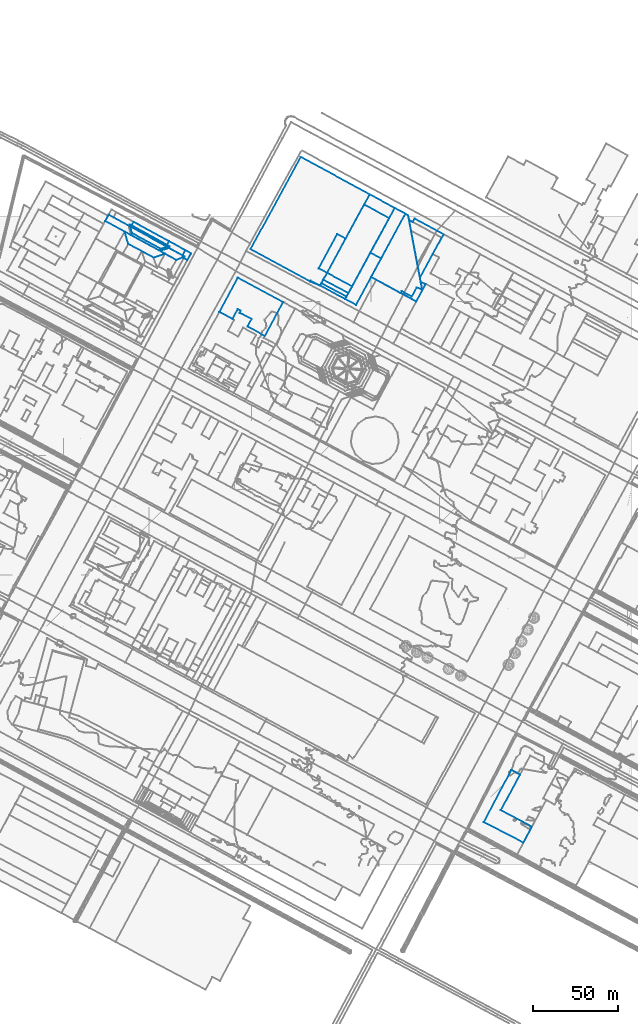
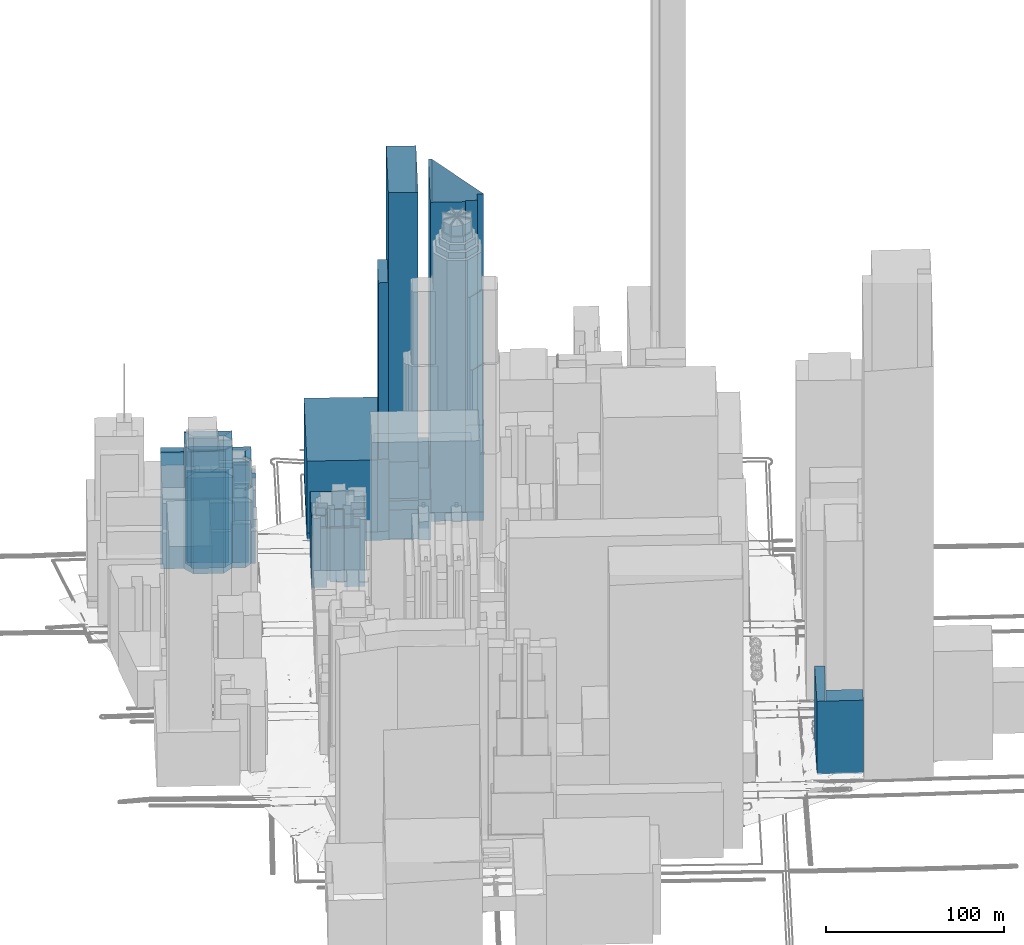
# Not in any storey, part 31 of 80: 23 walls.
"""IFC4 building model written with IfcOpenShell, lengths in metres."""

from ifc_helpers import new_model, si_unit, frame, origin_with_axes, place, context, subcontext, project, spatial, polygons, element, save


model = new_model("IFC4")

# Units and contexts
model_context = context("Model", 3, precision=1e-05, world=origin_with_axes())
body_context = subcontext(model_context, "Body", "Model", "MODEL_VIEW")
ifc_project = project(units=[si_unit("AREAUNIT", "SQUARE_METRE"), si_unit("LENGTHUNIT", "METRE")], contexts=[model_context])

# Sites, building
site_1_placement = place(None, origin_with_axes())
site_1 = spatial("IfcSite", under=ifc_project, at=site_1_placement, Name="Topoexport Site")
site_2_placement = place(site_1_placement, origin_with_axes())
site_2 = spatial("IfcSite", under=site_1, at=site_2_placement, Name="TPX_BATIMENTS")
building_1_placement = place(site_2_placement, frame((286.0454970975, 24.8510106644, 18.703520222), z_axis=(0.0, 0.0, 1.0), x_axis=(1.0, 0.0, 0.0)))
building_1 = spatial("IfcBuilding", under=site_2, at=building_1_placement, Name="Batiment 10", CompositionType="ELEMENT")

# Wall
wall_1_placement = place(None, frame((286.0454970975, 24.8510106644, 18.703520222), z_axis=(0.0, 0.0, 1.0), x_axis=(1.0, 0.0, 0.0)))
element("IfcWall", 1, at=wall_1_placement, inside=building_1, Name="Mur 0", context=body_context, shape_type="Tessellation", body=[
    polygons([(0.0, 0.0, 0.0), (23.1269540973, -12.0431954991, 0.0), (28.0919487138, -2.7261091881, 0.0), (9.9393429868, 6.9546793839, 0.0), (21.1440946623, 27.7575168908, 0.0), (16.1055235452, 30.5632428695, 0.0), (0.0, 0.0, 50.0), (23.1269540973, -12.0431954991, 50.0), (28.0919487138, -2.7261091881, 50.0), (9.9393429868, 6.9546793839, 50.0), (21.1440946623, 27.7575168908, 50.0), (16.1055235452, 30.5632428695, 50.0)], [[[8, 7, 2]], [[2, 7, 1]], [[9, 8, 3]], [[3, 8, 2]], [[10, 9, 4]], [[4, 9, 3]], [[11, 10, 5]], [[5, 10, 4]], [[7, 12, 1]], [[1, 12, 6]], [[12, 11, 6]], [[6, 11, 5]]]),
])

# Building
building_2_placement = place(site_2_placement, frame((219.6501998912, 358.1121317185, 21.8344391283), z_axis=(0.0, 0.0, 1.0), x_axis=(1.0, 0.0, 0.0)))
building_2 = spatial("IfcBuilding", under=site_2, at=building_2_placement, Name="Batiment 239", CompositionType="ELEMENT")

# Wall
wall_2_placement = place(None, frame((219.6501998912, 358.1121317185, 21.8344391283), z_axis=(0.0, 0.0, 1.0), x_axis=(1.0, 0.0, 0.0)))
element("IfcWall", 2, at=wall_2_placement, inside=building_2, Name="Mur 0", context=body_context, shape_type="Tessellation", body=[
    polygons([(0.0, 0.0, 0.0), (6.2692645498, -3.4020859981, 0.0), (20.4756016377, 22.7535668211, 0.0), (14.1893424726, 26.1665450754, 0.0), (0.0, 0.0, 27.7000007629), (6.2692645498, -3.4020859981, 27.7000007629), (20.4756016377, 22.7535668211, 27.7000007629), (14.1893424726, 26.1665450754, 27.7000007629)], [[[6, 5, 2]], [[2, 5, 1]], [[7, 6, 3]], [[3, 6, 2]], [[5, 8, 1]], [[1, 8, 4]], [[8, 7, 4]], [[4, 7, 3]]]),
])

# Building
building_3_placement = place(site_2_placement, frame((237.4075822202, 334.4377302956, 21.8574343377), z_axis=(0.0, 0.0, 1.0), x_axis=(1.0, 0.0, 0.0)))
building_3 = spatial("IfcBuilding", under=site_2, at=building_3_placement, Name="Batiment 247", CompositionType="ELEMENT")

# Wall
wall_3_placement = place(None, frame((237.4075822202, 334.4377302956, 21.8574343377), z_axis=(0.0, 0.0, 1.0), x_axis=(1.0, 0.0, 0.0)))
element("IfcWall", 3, at=wall_3_placement, inside=building_3, Name="Mur 0", context=body_context, shape_type="Tessellation", body=[
    polygons([(0.0, 0.0, 0.0), (9.0722546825, -4.8904699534, 0.0), (12.6339095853, 1.6902007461, 0.0), (9.4062271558, 3.4068039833, 0.0), (6.507259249, -2.0892360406, 0.0), (0.6119191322, 1.095140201, 0.0), (0.0, 0.0, 65.0), (9.0722546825, -4.8904699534, 65.0), (12.6339095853, 1.6902007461, 65.0), (9.4062271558, 3.4068039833, 65.0), (6.507259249, -2.0892360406, 65.0), (0.6119191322, 1.095140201, 65.0)], [[[8, 7, 2]], [[2, 7, 1]], [[9, 8, 3]], [[3, 8, 2]], [[10, 9, 4]], [[4, 9, 3]], [[11, 10, 5]], [[5, 10, 4]], [[7, 12, 1]], [[1, 12, 6]], [[12, 11, 6]], [[6, 11, 5]]]),
])

# Building
building_4_placement = place(site_2_placement, frame((220.0023122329, 343.8054149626, 21.493715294), z_axis=(0.0, 0.0, 1.0), x_axis=(1.0, 0.0, 0.0)))
building_4 = spatial("IfcBuilding", under=site_2, at=building_4_placement, Name="Batiment 248", CompositionType="ELEMENT")

# Wall
wall_4_placement = place(None, frame((220.0023122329, 343.8054149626, 21.493715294), z_axis=(0.0, 0.0, 1.0), x_axis=(1.0, 0.0, 0.0)))
element("IfcWall", 4, at=wall_4_placement, inside=building_4, Name="Mur 0", context=body_context, shape_type="Tessellation", body=[
    polygons([(0.0, 0.0, 0.0), (26.4775246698, -14.2581546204, 0.0), (31.9063663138, -4.1918534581, 0.0), (29.1545647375, -2.74727068, 0.0), (28.6785615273, -0.2881071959, 0.0), (42.4133124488, 25.0405352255, 0.0), (25.5002002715, 34.1918411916, 0.0), (24.4257112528, 32.2253420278, 0.0), (22.3276907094, 33.344465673, 0.0), (21.8057455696, 36.1250606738, 0.0), (20.1234892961, 37.0602835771, 0.0), (0.0, 0.0, 6.0), (26.4775246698, -14.2581546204, 6.0), (31.9063663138, -4.1918534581, 6.0), (29.1545647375, -2.74727068, 6.0), (28.6785615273, -0.2881071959, 6.0), (42.4133124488, 25.0405352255, 6.0), (25.5002002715, 34.1918411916, 6.0), (24.4257112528, 32.2253420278, 6.0), (22.3276907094, 33.344465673, 6.0), (21.8057455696, 36.1250606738, 6.0), (20.1234892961, 37.0602835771, 6.0)], [[[13, 12, 2]], [[2, 12, 1]], [[14, 13, 3]], [[3, 13, 2]], [[15, 14, 4]], [[4, 14, 3]], [[16, 15, 5]], [[5, 15, 4]], [[17, 16, 6]], [[6, 16, 5]], [[18, 17, 7]], [[7, 17, 6]], [[19, 18, 8]], [[8, 18, 7]], [[20, 19, 9]], [[9, 19, 8]], [[21, 20, 10]], [[10, 20, 9]], [[12, 22, 1]], [[1, 22, 11]], [[22, 21, 11]], [[11, 21, 10]]]),
])

# Building
building_5_placement = place(site_2_placement, frame((220.0023122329, 343.8054149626, 21.8574343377), z_axis=(0.0, 0.0, 1.0), x_axis=(1.0, 0.0, 0.0)))
building_5 = spatial("IfcBuilding", under=site_2, at=building_5_placement, Name="Batiment 249", CompositionType="ELEMENT")

# Wall
wall_5_placement = place(None, frame((220.0023122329, 343.8054149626, 21.8574343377), z_axis=(0.0, 0.0, 1.0), x_axis=(1.0, 0.0, 0.0)))
element("IfcWall", 5, at=wall_5_placement, inside=building_5, Name="Mur 0", context=body_context, shape_type="Tessellation", body=[
    polygons([(0.0, 0.0, 0.0), (17.4052699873, -9.367684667, 0.0), (18.0171891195, -8.272544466, 0.0), (23.9125292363, -11.4569207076, 0.0), (26.8114971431, -5.9608806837, 0.0), (30.0391795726, -7.6774839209, 0.0), (21.8057455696, 36.1250606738, 0.0), (20.1234892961, 37.0602835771, 0.0), (0.0, 0.0, 218.0), (17.4052699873, -9.367684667, 218.0), (18.0171891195, -8.272544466, 218.0), (23.9125292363, -11.4569207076, 218.0), (26.8114971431, -5.9608806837, 218.0), (30.0391795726, -7.6774839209, 218.0), (21.8057455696, 36.1250606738, 218.0), (20.1234892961, 37.0602835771, 218.0)], [[[10, 9, 2]], [[2, 9, 1]], [[11, 10, 3]], [[3, 10, 2]], [[12, 11, 4]], [[4, 11, 3]], [[13, 12, 5]], [[5, 12, 4]], [[14, 13, 6]], [[6, 13, 5]], [[15, 14, 7]], [[7, 14, 6]], [[9, 16, 1]], [[1, 16, 8]], [[16, 15, 8]], [[8, 15, 7]]]),
])

# Building
building_6_placement = place(site_2_placement, frame((194.2357723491, 346.2924328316, 22.8993147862), z_axis=(0.0, 0.0, 1.0), x_axis=(1.0, 0.0, 0.0)))
building_6 = spatial("IfcBuilding", under=site_2, at=building_6_placement, Name="Batiment 250", CompositionType="ELEMENT")

# Wall
wall_6_placement = place(None, frame((194.2357723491, 346.2924328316, 22.8993147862), z_axis=(0.0, 0.0, 1.0), x_axis=(1.0, 0.0, 0.0)))
element("IfcWall", 6, at=wall_6_placement, inside=building_6, Name="Mur 0", context=body_context, shape_type="Tessellation", body=[
    polygons([(0.0, 0.0, 0.0), (14.695507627, -7.911555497, 0.0), (36.3976918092, 32.0425454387, 0.0), (21.7021083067, 39.9651582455, 0.0), (0.0, 0.0, 231.0), (14.695507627, -7.911555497, 231.0), (36.3976918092, 32.0425454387, 231.0), (21.7021083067, 39.9651582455, 231.0)], [[[6, 5, 2]], [[2, 5, 1]], [[7, 6, 3]], [[3, 6, 2]], [[5, 8, 1]], [[1, 8, 4]], [[8, 7, 4]], [[4, 7, 3]]]),
])

# Building
building_7_placement = place(site_2_placement, frame((189.3088417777, 348.9551990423, 22.410062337), z_axis=(0.0, 0.0, 1.0), x_axis=(1.0, 0.0, 0.0)))
building_7 = spatial("IfcBuilding", under=site_2, at=building_7_placement, Name="Batiment 251", CompositionType="ELEMENT")

# Wall
wall_7_placement = place(None, frame((189.3088417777, 348.9551990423, 22.410062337), z_axis=(0.0, 0.0, 1.0), x_axis=(1.0, 0.0, 0.0)))
element("IfcWall", 7, at=wall_7_placement, inside=building_7, Name="Mur 0", context=body_context, shape_type="Tessellation", body=[
    polygons([(0.0, 0.0, 0.0), (4.9269305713, -2.6627662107, 0.0), (0.8608347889, -10.1485570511, 0.0), (15.5890804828, -17.9709220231, 0.0), (44.530700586, 35.3234777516, 0.0), (29.8769383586, 43.2798772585, 0.0), (15.8109363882, 17.3923517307, 0.0), (10.8841438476, 20.0440098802, 0.0), (0.0, 0.0, 6.0), (4.9269305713, -2.6627662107, 6.0), (0.8608347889, -10.1485570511, 6.0), (15.5890804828, -17.9709220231, 6.0), (44.530700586, 35.3234777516, 6.0), (29.8769383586, 43.2798772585, 6.0), (15.8109363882, 17.3923517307, 6.0), (10.8841438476, 20.0440098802, 6.0)], [[[10, 9, 2]], [[2, 9, 1]], [[11, 10, 3]], [[3, 10, 2]], [[12, 11, 4]], [[4, 11, 3]], [[13, 12, 5]], [[5, 12, 4]], [[14, 13, 6]], [[6, 13, 5]], [[15, 14, 7]], [[7, 14, 6]], [[9, 16, 1]], [[1, 16, 8]], [[16, 15, 8]], [[8, 15, 7]]]),
])

# Building
building_8_placement = place(site_2_placement, frame((189.3088417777, 348.9551990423, 22.410062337), z_axis=(0.0, 0.0, 1.0), x_axis=(1.0, 0.0, 0.0)))
building_8 = spatial("IfcBuilding", under=site_2, at=building_8_placement, Name="Batiment 252", CompositionType="ELEMENT")

# Wall
wall_8_placement = place(None, frame((189.3088417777, 348.9551990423, 22.410062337), z_axis=(0.0, 0.0, 1.0), x_axis=(1.0, 0.0, 0.0)))
element("IfcWall", 8, at=wall_8_placement, inside=building_8, Name="Mur 0", context=body_context, shape_type="Tessellation", body=[
    polygons([(0.0, 0.0, 0.0), (4.9269305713, -2.6627662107, 0.0), (15.8109363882, 17.3923517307, 0.0), (10.8841438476, 20.0440098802, 0.0), (0.0, 0.0, 170.0), (4.9269305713, -2.6627662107, 170.0), (15.8109363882, 17.3923517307, 170.0), (10.8841438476, 20.0440098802, 170.0)], [[[6, 5, 2]], [[2, 5, 1]], [[7, 6, 3]], [[3, 6, 2]], [[5, 8, 1]], [[1, 8, 4]], [[8, 7, 4]], [[4, 7, 3]]]),
])

# Building
building_9_placement = place(site_2_placement, frame((192.0622109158, 342.2925513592, 22.833956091), z_axis=(0.0, 0.0, 1.0), x_axis=(1.0, 0.0, 0.0)))
building_9 = spatial("IfcBuilding", under=site_2, at=building_9_placement, Name="Batiment 253", CompositionType="ELEMENT")

# Wall
wall_9_placement = place(None, frame((192.0622109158, 342.2925513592, 22.833956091), z_axis=(0.0, 0.0, 1.0), x_axis=(1.0, 0.0, 0.0)))
element("IfcWall", 9, at=wall_9_placement, inside=building_9, Name="Mur 0", context=body_context, shape_type="Tessellation", body=[
    polygons([(0.0, 0.0, 0.0), (14.6956420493, -7.9226606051, 0.0), (16.8690690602, -3.9116740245, 0.0), (2.1735614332, 3.9998814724, 0.0), (0.0, 0.0, 50.0), (14.6956420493, -7.9226606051, 50.0), (16.8690690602, -3.9116740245, 50.0), (2.1735614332, 3.9998814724, 50.0)], [[[6, 5, 2]], [[2, 5, 1]], [[7, 6, 3]], [[3, 6, 2]], [[5, 8, 1]], [[1, 8, 4]], [[8, 7, 4]], [[4, 7, 3]]]),
])

# Building
building_10_placement = place(site_2_placement, frame((190.971338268, 340.2814610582, 22.7953305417), z_axis=(0.0, 0.0, 1.0), x_axis=(1.0, 0.0, 0.0)))
building_10 = spatial("IfcBuilding", under=site_2, at=building_10_placement, Name="Batiment 254", CompositionType="ELEMENT")

# Wall
wall_10_placement = place(None, frame((190.971338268, 340.2814610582, 22.7953305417), z_axis=(0.0, 0.0, 1.0), x_axis=(1.0, 0.0, 0.0)))
element("IfcWall", 10, at=wall_10_placement, inside=building_10, Name="Mur 0", context=body_context, shape_type="Tessellation", body=[
    polygons([(0.0, 0.0, 0.0), (14.6956447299, -7.9226627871, 0.0), (15.7865146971, -5.9115703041, 0.0), (1.0908726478, 2.011090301, 0.0), (0.0, 0.0, 25.0), (14.6956447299, -7.9226627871, 25.0), (15.7865146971, -5.9115703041, 25.0), (1.0908726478, 2.011090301, 25.0)], [[[6, 5, 2]], [[2, 5, 1]], [[7, 6, 3]], [[3, 6, 2]], [[5, 8, 1]], [[1, 8, 4]], [[8, 7, 4]], [[4, 7, 3]]]),
])

# Building
building_11_placement = place(site_2_placement, frame((190.1696765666, 338.8066419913, 22.7695470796), z_axis=(0.0, 0.0, 1.0), x_axis=(1.0, 0.0, 0.0)))
building_11 = spatial("IfcBuilding", under=site_2, at=building_11_placement, Name="Batiment 255", CompositionType="ELEMENT")

# Wall
wall_11_placement = place(None, frame((190.1696765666, 338.8066419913, 22.7695470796), z_axis=(0.0, 0.0, 1.0), x_axis=(1.0, 0.0, 0.0)))
element("IfcWall", 11, at=wall_11_placement, inside=building_11, Name="Mur 0", context=body_context, shape_type="Tessellation", body=[
    polygons([(0.0, 0.0, 0.0), (14.728245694, -7.822364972, 0.0), (15.4973064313, -6.4478437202, 0.0), (0.8016617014, 1.4748190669, 0.0), (0.0, 0.0, 20.0), (14.728245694, -7.822364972, 20.0), (15.4973064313, -6.4478437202, 20.0), (0.8016617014, 1.4748190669, 20.0)], [[[6, 5, 2]], [[2, 5, 1]], [[7, 6, 3]], [[3, 6, 2]], [[5, 8, 1]], [[1, 8, 4]], [[8, 7, 4]], [[4, 7, 3]]]),
])

# Building
building_12_placement = place(site_2_placement, frame((204.8979222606, 330.9842770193, 21.8344391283), z_axis=(0.0, 0.0, 1.0), x_axis=(1.0, 0.0, 0.0)))
building_12 = spatial("IfcBuilding", under=site_2, at=building_12_placement, Name="Batiment 256", CompositionType="ELEMENT")

# Wall
wall_12_placement = place(None, frame((204.8979222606, 330.9842770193, 21.8344391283), z_axis=(0.0, 0.0, 1.0), x_axis=(1.0, 0.0, 0.0)))
element("IfcWall", 12, at=wall_12_placement, inside=building_12, Name="Mur 0", context=body_context, shape_type="Tessellation", body=[
    polygons([(0.0, 0.0, 0.0), (6.2862894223, -3.4130030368, 0.0), (21.0215421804, 23.7257687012, 0.0), (14.7522776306, 27.1278546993, 0.0), (0.0, 0.0, 27.7000007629), (6.2862894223, -3.4130030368, 27.7000007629), (21.0215421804, 23.7257687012, 27.7000007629), (14.7522776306, 27.1278546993, 27.7000007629)], [[[6, 5, 2]], [[2, 5, 1]], [[7, 6, 3]], [[3, 6, 2]], [[5, 8, 1]], [[1, 8, 4]], [[8, 7, 4]], [[4, 7, 3]]]),
])

# Building
building_13_placement = place(site_2_placement, frame((131.2414210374, 323.4889407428, 19.5874307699), z_axis=(0.0, 0.0, 1.0), x_axis=(1.0, 0.0, 0.0)))
building_13 = spatial("IfcBuilding", under=site_2, at=building_13_placement, Name="Batiment 257", CompositionType="ELEMENT")

# Wall
wall_13_placement = place(None, frame((131.2414210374, 323.4889407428, 19.5874307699), z_axis=(0.0, 0.0, 1.0), x_axis=(1.0, 0.0, 0.0)))
element("IfcWall", 13, at=wall_13_placement, inside=building_13, Name="Mur 0", context=body_context, shape_type="Tessellation", body=[
    polygons([(0.0, 0.0, 0.0), (7.6623465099, -4.1520283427, 0.0), (10.7530705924, 1.557139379, 0.0), (12.4605179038, 0.6332892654, 0.0), (11.7910505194, -0.5957385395, 0.0), (18.9140593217, -4.0989897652, 0.0), (16.4763130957, -8.6126311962, 0.0), (26.6105246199, -14.0903890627, 0.0), (37.2957336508, 5.6514960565, 0.0), (10.8174622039, 19.9876323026, 0.0), (0.0, 0.0, 49.7000007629), (7.6623465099, -4.1520283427, 49.7000007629), (10.7530705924, 1.557139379, 49.7000007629), (12.4605179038, 0.6332892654, 49.7000007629), (11.7910505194, -0.5957385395, 49.7000007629), (18.9140593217, -4.0989897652, 49.7000007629), (16.4763130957, -8.6126311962, 49.7000007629), (26.6105246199, -14.0903890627, 49.7000007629), (37.2957336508, 5.6514960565, 49.7000007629), (10.8174622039, 19.9876323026, 49.7000007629)], [[[12, 11, 2]], [[2, 11, 1]], [[13, 12, 3]], [[3, 12, 2]], [[14, 13, 4]], [[4, 13, 3]], [[15, 14, 5]], [[5, 14, 4]], [[16, 15, 6]], [[6, 15, 5]], [[17, 16, 7]], [[7, 16, 6]], [[18, 17, 8]], [[8, 17, 7]], [[19, 18, 9]], [[9, 18, 8]], [[11, 20, 1]], [[1, 20, 10]], [[20, 19, 10]], [[10, 19, 9]]]),
])

# Building
building_14_placement = place(site_2_placement, frame((149.4964624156, 360.1164702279, 22.410062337), z_axis=(0.0, 0.0, 1.0), x_axis=(1.0, 0.0, 0.0)))
building_14 = spatial("IfcBuilding", under=site_2, at=building_14_placement, Name="Batiment 258", CompositionType="ELEMENT")

# Wall
wall_14_placement = place(None, frame((149.4964624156, 360.1164702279, 22.410062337), z_axis=(0.0, 0.0, 1.0), x_axis=(1.0, 0.0, 0.0)))
element("IfcWall", 14, at=wall_14_placement, inside=building_14, Name="Mur 0", context=body_context, shape_type="Tessellation", body=[
    polygons([(0.0, 0.0, 0.0), (34.744220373, -18.8585502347, 0.0), (40.6732141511, -21.3098282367, 0.0), (44.7393099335, -13.8240373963, 0.0), (39.8123793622, -11.1612711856, 0.0), (50.6965232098, 8.8827386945, 0.0), (55.6233157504, 6.2310805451, 0.0), (69.6893177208, 32.1186060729, 0.0), (29.3384984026, 54.0315411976, 0.0), (0.0, 0.0, 6.0), (34.744220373, -18.8585502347, 6.0), (40.6732141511, -21.3098282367, 6.0), (44.7393099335, -13.8240373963, 6.0), (39.8123793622, -11.1612711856, 6.0), (50.6965232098, 8.8827386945, 6.0), (55.6233157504, 6.2310805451, 6.0), (69.6893177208, 32.1186060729, 6.0), (29.3384984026, 54.0315411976, 6.0)], [[[11, 10, 2]], [[2, 10, 1]], [[12, 11, 3]], [[3, 11, 2]], [[13, 12, 4]], [[4, 12, 3]], [[14, 13, 5]], [[5, 13, 4]], [[15, 14, 6]], [[6, 14, 5]], [[16, 15, 7]], [[7, 15, 6]], [[17, 16, 8]], [[8, 16, 7]], [[10, 18, 1]], [[1, 18, 9]], [[18, 17, 9]], [[9, 17, 8]]]),
])

# Building
building_15_placement = place(site_2_placement, frame((149.4964624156, 360.1164702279, 22.410062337), z_axis=(0.0, 0.0, 1.0), x_axis=(1.0, 0.0, 0.0)))
building_15 = spatial("IfcBuilding", under=site_2, at=building_15_placement, Name="Batiment 259", CompositionType="ELEMENT")

# Wall
wall_15_placement = place(None, frame((149.4964624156, 360.1164702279, 22.410062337), z_axis=(0.0, 0.0, 1.0), x_axis=(1.0, 0.0, 0.0)))
element("IfcWall", 15, at=wall_15_placement, inside=building_15, Name="Mur 0", context=body_context, shape_type="Tessellation", body=[
    polygons([(0.0, 0.0, 0.0), (34.744220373, -18.8585502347, 0.0), (35.0417433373, -18.3110805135, 0.0), (40.6732141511, -21.3098282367, 0.0), (44.7393099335, -13.8240373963, 0.0), (39.8123793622, -11.1612711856, 0.0), (50.6965232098, 8.8827386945, 0.0), (55.6233157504, 6.2310805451, 0.0), (69.6893177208, 32.1186060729, 0.0), (29.3384984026, 54.0315411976, 0.0), (0.0, 0.0, 55.2000007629), (34.744220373, -18.8585502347, 55.2000007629), (35.0417433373, -18.3110805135, 55.2000007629), (40.6732141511, -21.3098282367, 55.2000007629), (44.7393099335, -13.8240373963, 55.2000007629), (39.8123793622, -11.1612711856, 55.2000007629), (50.6965232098, 8.8827386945, 55.2000007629), (55.6233157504, 6.2310805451, 55.2000007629), (69.6893177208, 32.1186060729, 55.2000007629), (29.3384984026, 54.0315411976, 55.2000007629)], [[[12, 11, 2]], [[2, 11, 1]], [[13, 12, 3]], [[3, 12, 2]], [[14, 13, 4]], [[4, 13, 3]], [[15, 14, 5]], [[5, 14, 4]], [[16, 15, 6]], [[6, 15, 5]], [[17, 16, 7]], [[7, 16, 6]], [[18, 17, 8]], [[8, 17, 7]], [[19, 18, 9]], [[9, 18, 8]], [[11, 20, 1]], [[1, 20, 10]], [[20, 19, 10]], [[10, 19, 9]]]),
])

# Building
building_16_placement = place(site_2_placement, frame((96.2081885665, 359.2420118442, 24.1378546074), z_axis=(0.0, 0.0, 1.0), x_axis=(1.0, 0.0, 0.0)))
building_16 = spatial("IfcBuilding", under=site_2, at=building_16_placement, Name="Batiment 275", CompositionType="ELEMENT")

# Wall
wall_16_placement = place(None, frame((96.2081885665, 359.2420118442, 24.1378546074), z_axis=(0.0, 0.0, 1.0), x_axis=(1.0, 0.0, 0.0)))
element("IfcWall", 16, at=wall_16_placement, inside=building_16, Name="Mur 0", context=body_context, shape_type="Tessellation", body=[
    polygons([(0.0, 0.0, 0.0), (5.476758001, 1.5957227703, 0.0), (5.9728530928, 2.4896654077, 0.0), (0.6444088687, 1.2065279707, 0.0), (0.0, 0.0, 80.0), (5.476758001, 1.5957227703, 80.0), (5.9728530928, 2.4896654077, 80.0), (0.6444088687, 1.2065279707, 80.0)], [[[6, 5, 2]], [[2, 5, 1]], [[7, 6, 3]], [[3, 6, 2]], [[5, 8, 1]], [[1, 8, 4]], [[8, 7, 4]], [[4, 7, 3]]]),
])

# Building
building_17_placement = place(site_2_placement, frame((100.5582678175, 362.6343155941, 24.249661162), z_axis=(0.0, 0.0, 1.0), x_axis=(1.0, 0.0, 0.0)))
building_17 = spatial("IfcBuilding", under=site_2, at=building_17_placement, Name="Batiment 276", CompositionType="ELEMENT")

# Wall
wall_17_placement = place(None, frame((100.5582678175, 362.6343155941, 24.249661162), z_axis=(0.0, 0.0, 1.0), x_axis=(1.0, 0.0, 0.0)))
element("IfcWall", 17, at=wall_17_placement, inside=building_17, Name="Mur 0", context=body_context, shape_type="Tessellation", body=[
    polygons([(0.0, 0.0, 0.0), (1.6227738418, -0.9026383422, 0.0), (1.12667875, -1.7965809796, 0.0), (9.0533233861, -6.1787158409, 0.0), (10.7731599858, -3.0834129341, 0.0), (1.1989392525, 2.1566610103, 0.0), (0.0, 0.0, 67.0), (1.6227738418, -0.9026383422, 67.0), (1.12667875, -1.7965809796, 67.0), (9.0533233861, -6.1787158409, 67.0), (10.7731599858, -3.0834129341, 67.0), (1.1989392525, 2.1566610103, 67.0)], [[[8, 7, 2]], [[2, 7, 1]], [[9, 8, 3]], [[3, 8, 2]], [[10, 9, 4]], [[4, 9, 3]], [[11, 10, 5]], [[5, 10, 4]], [[7, 12, 1]], [[1, 12, 6]], [[12, 11, 6]], [[6, 11, 5]]]),
])

# Building
building_18_placement = place(site_2_placement, frame((109.6115912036, 356.4555997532, 24.2810848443), z_axis=(0.0, 0.0, 1.0), x_axis=(1.0, 0.0, 0.0)))
building_18 = spatial("IfcBuilding", under=site_2, at=building_18_placement, Name="Batiment 282", CompositionType="ELEMENT")

# Wall
wall_18_placement = place(None, frame((109.6115912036, 356.4555997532, 24.2810848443), z_axis=(0.0, 0.0, 1.0), x_axis=(1.0, 0.0, 0.0)))
element("IfcWall", 18, at=wall_18_placement, inside=building_18, Name="Mur 0", context=body_context, shape_type="Tessellation", body=[
    polygons([(0.0, 0.0, 0.0), (1.3240174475, -0.6174482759, 0.0), (0.8032471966, -1.5671894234, 0.0), (2.8929417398, -2.6975489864, 0.0), (5.0500484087, 1.268810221, 0.0), (1.7198365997, 3.0953029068, 0.0), (0.0, 0.0, 62.0), (1.3240174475, -0.6174482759, 62.0), (0.8032471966, -1.5671894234, 62.0), (2.8929417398, -2.6975489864, 62.0), (5.0500484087, 1.268810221, 62.0), (1.7198365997, 3.0953029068, 62.0)], [[[8, 7, 2]], [[2, 7, 1]], [[9, 8, 3]], [[3, 8, 2]], [[10, 9, 4]], [[4, 9, 3]], [[11, 10, 5]], [[5, 10, 4]], [[7, 12, 1]], [[1, 12, 6]], [[12, 11, 6]], [[6, 11, 5]]]),
])

# Building
building_19_placement = place(site_2_placement, frame((79.4722561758, 368.4179540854, 23.5718630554), z_axis=(0.0, 0.0, 1.0), x_axis=(1.0, 0.0, 0.0)))
building_19 = spatial("IfcBuilding", under=site_2, at=building_19_placement, Name="Batiment 288", CompositionType="ELEMENT")

# Wall
wall_19_placement = place(None, frame((79.4722561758, 368.4179540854, 23.5718630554), z_axis=(0.0, 0.0, 1.0), x_axis=(1.0, 0.0, 0.0)))
element("IfcWall", 19, at=wall_19_placement, inside=building_19, Name="Mur 0", context=body_context, shape_type="Tessellation", body=[
    polygons([(0.0, 0.0, 0.0), (16.7359323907, -9.1759422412, 0.0), (17.3803412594, -7.9694142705, 0.0), (0.6023388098, 1.1949356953, 0.0), (0.0, 0.0, 80.0), (16.7359323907, -9.1759422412, 80.0), (17.3803412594, -7.9694142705, 80.0), (0.6023388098, 1.1949356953, 80.0)], [[[6, 5, 2]], [[2, 5, 1]], [[7, 6, 3]], [[3, 6, 2]], [[5, 8, 1]], [[1, 8, 4]], [[8, 7, 4]], [[4, 7, 3]]]),
])

# Building
building_20_placement = place(site_2_placement, frame((75.8192697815, 370.4183503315, 23.455162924), z_axis=(0.0, 0.0, 1.0), x_axis=(1.0, 0.0, 0.0)))
building_20 = spatial("IfcBuilding", under=site_2, at=building_20_placement, Name="Batiment 289", CompositionType="ELEMENT")

# Wall
wall_20_placement = place(None, frame((75.8192697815, 370.4183503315, 23.455162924), z_axis=(0.0, 0.0, 1.0), x_axis=(1.0, 0.0, 0.0)))
element("IfcWall", 20, at=wall_20_placement, inside=building_20, Name="Mur 0", context=body_context, shape_type="Tessellation", body=[
    polygons([(0.0, 0.0, 0.0), (2.1596786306, -7.1580802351, 0.0), (16.9913548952, -15.1793033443, 0.0), (23.6426495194, -12.9593171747, 0.0), (0.0, 0.0, 94.0), (2.1596786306, -7.1580802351, 94.0), (16.9913548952, -15.1793033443, 94.0), (23.6426495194, -12.9593171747, 94.0)], [[[6, 5, 2]], [[2, 5, 1]], [[7, 6, 3]], [[3, 6, 2]], [[5, 8, 1]], [[1, 8, 4]], [[8, 7, 4]], [[4, 7, 3]]]),
])

# Building
building_21_placement = place(site_2_placement, frame((64.4356085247, 376.647766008, 23.5361312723), z_axis=(0.0, 0.0, 1.0), x_axis=(1.0, 0.0, 0.0)))
building_21 = spatial("IfcBuilding", under=site_2, at=building_21_placement, Name="Batiment 318", CompositionType="ELEMENT")

# Wall
wall_21_placement = place(None, frame((64.4356085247, 376.647766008, 23.5361312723), z_axis=(0.0, 0.0, 1.0), x_axis=(1.0, 0.0, 0.0)))
element("IfcWall", 21, at=wall_21_placement, inside=building_21, Name="Mur 0", context=body_context, shape_type="Tessellation", body=[
    polygons([(0.0, 0.0, 0.0), (41.6015563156, -22.7761032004, 0.0), (46.5000001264, -20.8096145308, 0.0), (2.0171223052, 3.6649587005, 0.0), (0.0, 0.0, 80.0), (41.6015563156, -22.7761032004, 80.0), (46.5000001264, -20.8096145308, 80.0), (2.0171223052, 3.6649587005, 80.0)], [[[6, 5, 2]], [[2, 5, 1]], [[7, 6, 3]], [[3, 6, 2]], [[5, 8, 1]], [[1, 8, 4]], [[8, 7, 4]], [[4, 7, 3]]]),
])

# Building
building_22_placement = place(site_2_placement, frame((78.834450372, 374.6389122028, 23.6117030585), z_axis=(0.0, 0.0, 1.0), x_axis=(1.0, 0.0, 0.0)))
building_22 = spatial("IfcBuilding", under=site_2, at=building_22_placement, Name="Batiment 319", CompositionType="ELEMENT")

# Wall
wall_22_placement = place(None, frame((78.834450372, 374.6389122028, 23.6117030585), z_axis=(0.0, 0.0, 1.0), x_axis=(1.0, 0.0, 0.0)))
element("IfcWall", 22, at=wall_22_placement, inside=building_22, Name="Mur 0", context=body_context, shape_type="Tessellation", body=[
    polygons([(0.0, 0.0, 0.0), (1.2401446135, -5.0260224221, 0.0), (18.0181470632, -14.1903723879, 0.0), (23.3465912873, -12.9072349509, 0.0), (0.0, 0.0, 80.0), (1.2401446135, -5.0260224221, 80.0), (18.0181470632, -14.1903723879, 80.0), (23.3465912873, -12.9072349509, 80.0)], [[[6, 5, 2]], [[2, 5, 1]], [[7, 6, 3]], [[3, 6, 2]], [[5, 8, 1]], [[1, 8, 4]], [[8, 7, 4]], [[4, 7, 3]]]),
])

# Building
building_23_placement = place(site_2_placement, frame((79.8285224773, 374.0842406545, 23.8438960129), z_axis=(0.0, 0.0, 1.0), x_axis=(1.0, 0.0, 0.0)))
building_23 = spatial("IfcBuilding", under=site_2, at=building_23_placement, Name="Batiment 320", CompositionType="ELEMENT")

# Wall
wall_23_placement = place(None, frame((79.8285224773, 374.0842406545, 23.8438960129), z_axis=(0.0, 0.0, 1.0), x_axis=(1.0, 0.0, 0.0)))
element("IfcWall", 23, at=wall_23_placement, inside=building_23, Name="Mur 0", context=body_context, shape_type="Tessellation", body=[
    polygons([(0.0, 0.0, 0.0), (20.7297453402, -11.4499250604, 0.0), (21.9286845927, -9.29326405, 0.0), (1.1493335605, 2.0672635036, 0.0), (0.0, 0.0, 62.0), (20.7297453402, -11.4499250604, 62.0), (21.9286845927, -9.29326405, 62.0), (1.1493335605, 2.0672635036, 62.0)], [[[6, 5, 2]], [[2, 5, 1]], [[7, 6, 3]], [[3, 6, 2]], [[5, 8, 1]], [[1, 8, 4]], [[8, 7, 4]], [[4, 7, 3]]]),
])

save(model, "model.ifc")
